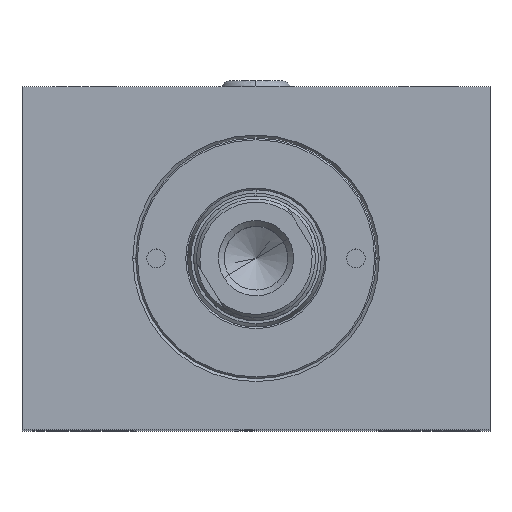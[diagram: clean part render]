
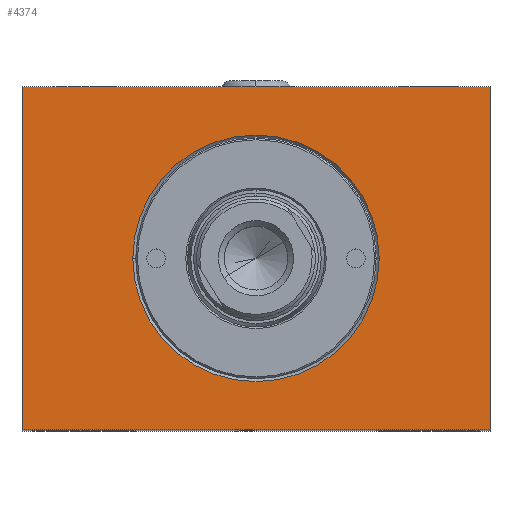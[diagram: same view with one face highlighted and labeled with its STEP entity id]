
A CAD part, top view. The second image highlights one B-rep face of the part: STEP entity #4374.
In plain terms, the highlighted planar face has unit normal (0, 0, 1).
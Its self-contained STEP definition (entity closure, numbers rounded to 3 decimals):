
#178 = ORIENTED_EDGE ( 'NONE', *, *, #7594, .T. ) ;
#577 = CARTESIAN_POINT ( 'NONE',  ( 37.5, 27.5, 125. ) ) ;
#839 = VECTOR ( 'NONE', #9420, 1000. ) ;
#1345 = PLANE ( 'NONE',  #5955 ) ;
#1453 = CIRCLE ( 'NONE', #6250, 19.75 ) ;
#2078 = EDGE_CURVE ( 'NONE', #8413, #2737, #7854, .T. ) ;
#2647 = DIRECTION ( 'NONE',  ( -1., 0., 0. ) ) ;
#2737 = VERTEX_POINT ( 'NONE', #4023 ) ;
#2882 = ORIENTED_EDGE ( 'NONE', *, *, #9221, .T. ) ;
#2966 = LINE ( 'NONE', #12759, #12423 ) ;
#3248 = CARTESIAN_POINT ( 'NONE',  ( 17.75, 27.5, 125. ) ) ;
#3258 = CARTESIAN_POINT ( 'NONE',  ( 0., 0., 125. ) ) ;
#3663 = LINE ( 'NONE', #9544, #839 ) ;
#3696 = EDGE_LOOP ( 'NONE', ( #10561, #9662, #11973, #178 ) ) ;
#3729 = DIRECTION ( 'NONE',  ( -1., 0., 0. ) ) ;
#4023 = CARTESIAN_POINT ( 'NONE',  ( 0., 0., 125. ) ) ;
#4196 = FACE_BOUND ( 'NONE', #11591, .T. ) ;
#4374 = ADVANCED_FACE ( 'NONE', ( #4196, #4806 ), #1345, .F. ) ;
#4393 = DIRECTION ( 'NONE',  ( -1., 0., 0. ) ) ;
#4761 = LINE ( 'NONE', #6800, #12490 ) ;
#4806 = FACE_OUTER_BOUND ( 'NONE', #3696, .T. ) ;
#4824 = VECTOR ( 'NONE', #7278, 1000. ) ;
#5476 = CARTESIAN_POINT ( 'NONE',  ( 57.25, 27.5, 125. ) ) ;
#5955 = AXIS2_PLACEMENT_3D ( 'NONE', #8412, #10285, #4393 ) ;
#6095 = AXIS2_PLACEMENT_3D ( 'NONE', #577, #12628, #2647 ) ;
#6250 = AXIS2_PLACEMENT_3D ( 'NONE', #11724, #10745, #11837 ) ;
#6720 = EDGE_CURVE ( 'NONE', #9050, #9564, #1453, .T. ) ;
#6800 = CARTESIAN_POINT ( 'NONE',  ( 0., 55., 125. ) ) ;
#7151 = EDGE_CURVE ( 'NONE', #2737, #12698, #3663, .T. ) ;
#7278 = DIRECTION ( 'NONE',  ( 0., -1., 0. ) ) ;
#7594 = EDGE_CURVE ( 'NONE', #9836, #8413, #4761, .T. ) ;
#7700 = DIRECTION ( 'NONE',  ( 0., 1., 0. ) ) ;
#7854 = LINE ( 'NONE', #3258, #4824 ) ;
#8412 = CARTESIAN_POINT ( 'NONE',  ( 0., 0., 125. ) ) ;
#8413 = VERTEX_POINT ( 'NONE', #12549 ) ;
#8524 = CARTESIAN_POINT ( 'NONE',  ( 75., 55., 125. ) ) ;
#8694 = CIRCLE ( 'NONE', #6095, 19.75 ) ;
#9050 = VERTEX_POINT ( 'NONE', #3248 ) ;
#9221 = EDGE_CURVE ( 'NONE', #9564, #9050, #8694, .T. ) ;
#9420 = DIRECTION ( 'NONE',  ( 1., 0., 0. ) ) ;
#9544 = CARTESIAN_POINT ( 'NONE',  ( 0., 0., 125. ) ) ;
#9564 = VERTEX_POINT ( 'NONE', #5476 ) ;
#9662 = ORIENTED_EDGE ( 'NONE', *, *, #7151, .T. ) ;
#9836 = VERTEX_POINT ( 'NONE', #8524 ) ;
#10285 = DIRECTION ( 'NONE',  ( 0., 0., -1. ) ) ;
#10561 = ORIENTED_EDGE ( 'NONE', *, *, #2078, .T. ) ;
#10745 = DIRECTION ( 'NONE',  ( 0., 0., -1. ) ) ;
#11020 = EDGE_CURVE ( 'NONE', #12698, #9836, #2966, .T. ) ;
#11235 = ORIENTED_EDGE ( 'NONE', *, *, #6720, .T. ) ;
#11591 = EDGE_LOOP ( 'NONE', ( #2882, #11235 ) ) ;
#11724 = CARTESIAN_POINT ( 'NONE',  ( 37.5, 27.5, 125. ) ) ;
#11837 = DIRECTION ( 'NONE',  ( -1., 0., 0. ) ) ;
#11973 = ORIENTED_EDGE ( 'NONE', *, *, #11020, .T. ) ;
#12110 = CARTESIAN_POINT ( 'NONE',  ( 75., 0., 125. ) ) ;
#12423 = VECTOR ( 'NONE', #7700, 1000. ) ;
#12490 = VECTOR ( 'NONE', #3729, 1000. ) ;
#12549 = CARTESIAN_POINT ( 'NONE',  ( 0., 55., 125. ) ) ;
#12628 = DIRECTION ( 'NONE',  ( 0., 0., -1. ) ) ;
#12698 = VERTEX_POINT ( 'NONE', #12110 ) ;
#12759 = CARTESIAN_POINT ( 'NONE',  ( 75., 0., 125. ) ) ;
